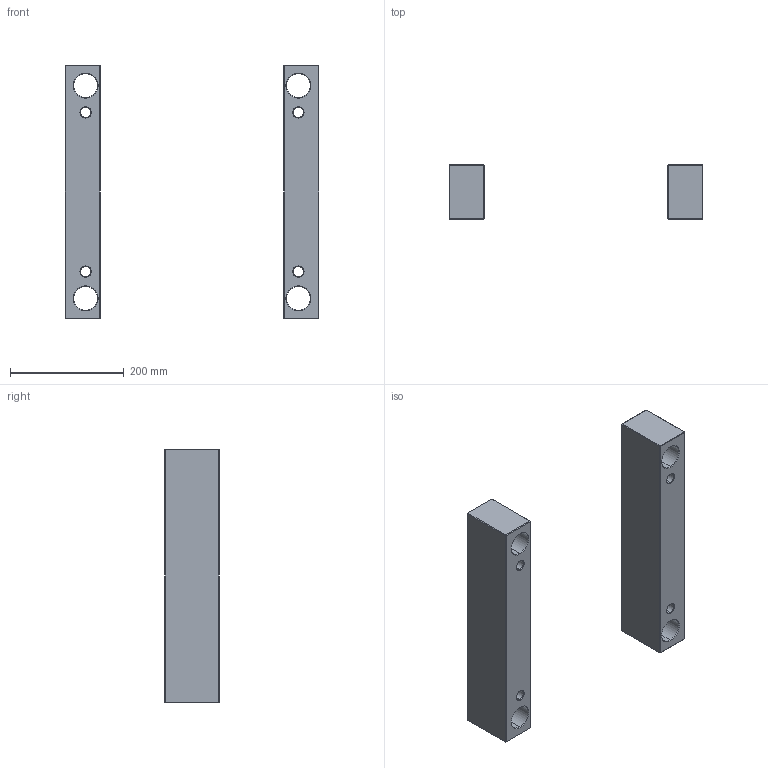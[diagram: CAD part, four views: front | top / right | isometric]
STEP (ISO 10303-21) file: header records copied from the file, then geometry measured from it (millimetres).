
FILE_DESCRIPTION (( 'STEP AP214' ), '1' );
FILE_NAME ('ESP-EU-446X446x96.STEP', '2020-04-16T11:49:28', ( 'August' ), ( '' ), 'SwSTEP 2.0', 'SolidWorks 2018', '' );
FILE_SCHEMA (( 'AUTOMOTIVE_DESIGN' ));
Length unit declared in the file: millimetre
Products named in the file (1): ESP-EU-446X446x96
Bounding box: 446 x 96 x 446 mm (x, y, z)
Volume: 4676282 mm3; surface area: 361243.9 mm2
Topology: 2 solids, 2 shells, 100 faces, 208 edges, 112 vertices
Faces by surface type: plane 52, cone 32, cylinder 16
Entity records: 2631 total; most frequent: DIRECTION 474, CARTESIAN_POINT 421, ORIENTED_EDGE 416, EDGE_CURVE 208, AXIS2_PLACEMENT_3D 165, LINE 144, VECTOR 144, EDGE_LOOP 116
